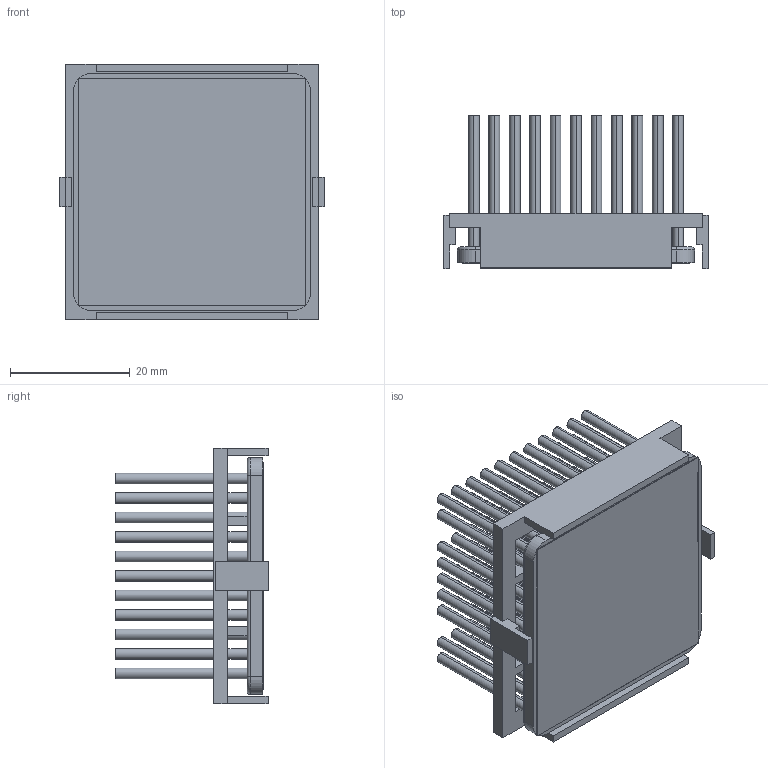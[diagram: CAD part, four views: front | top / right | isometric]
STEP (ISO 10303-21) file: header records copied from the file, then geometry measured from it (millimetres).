
FILE_DESCRIPTION (( 'STEP AP214' ), '1' );
FILE_NAME ('INM40002-25PCU-2.6O.STEP', '2023-02-27T17:58:21', ( '' ), ( '' ), 'SwSTEP 2.0', 'SolidWorks 2020', '' );
FILE_SCHEMA (( 'AUTOMOTIVE_DESIGN' ));
Length unit declared in the file: inch
Products named in the file (1): INM40002-25PCU-2.6O
Bounding box: 44.2 x 25.6 x 42.7 mm (x, y, z)
Volume: 12566.7 mm3; surface area: 23618.4 mm2
Topology: 3 solids, 3 shells, 421 faces, 898 edges, 596 vertices
Faces by surface type: cylinder 234, plane 183, torus 4
Entity records: 17099 total; most frequent: DIRECTION 2214, CARTESIAN_POINT 1916, ORIENTED_EDGE 1796, EDGE_CURVE 898, AXIS2_PLACEMENT_3D 894, VERTEX_POINT 596, EDGE_LOOP 536, CIRCLE 472
